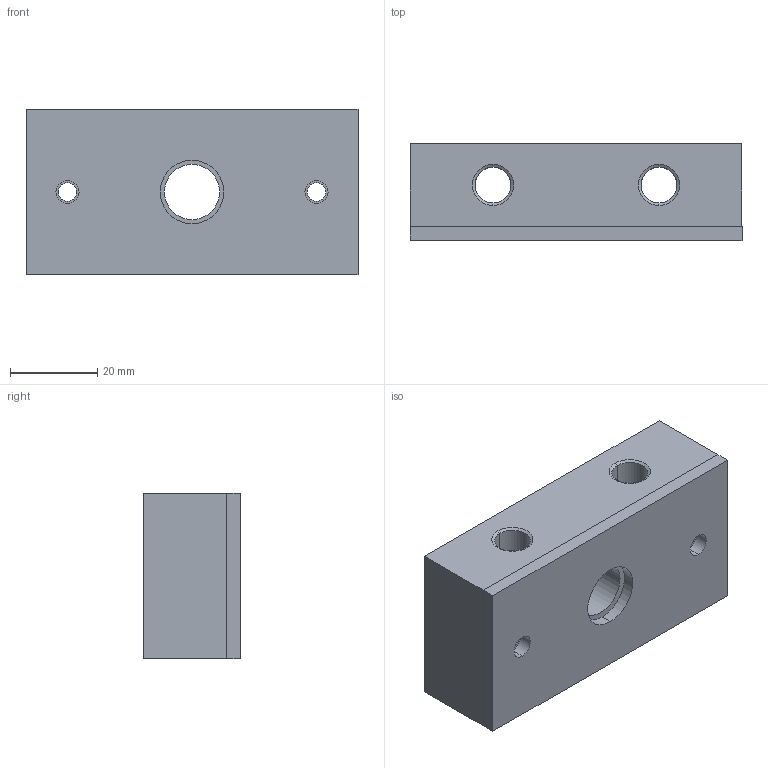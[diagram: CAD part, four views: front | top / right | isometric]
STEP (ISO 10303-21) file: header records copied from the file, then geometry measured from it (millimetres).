
FILE_DESCRIPTION (( 'STEP AP214' ), '1' );
FILE_NAME ('Bearing Block (904 000).STEP', '2020-11-20T13:08:18', ( '' ), ( '' ), 'SwSTEP 2.0', 'SolidWorks 2020', '' );
FILE_SCHEMA (( 'AUTOMOTIVE_DESIGN' ));
Length unit declared in the file: millimetre
Products named in the file (4): Bearing Block Base (104 000)_BOM; Bearing Block (904 000); 1.125OD x .5ID x .3125H Radial Bearing (013 000); Bearing Block Cover (104 002)_BOM
Assembly tree (3 placements, depth 2):
  Bearing Block (904 000)
    Bearing Block Base (104 000)_BOM
    1.125OD x .5ID x .3125H Radial Bearing (013 000)
    Bearing Block Cover (104 002)_BOM
Bounding box: 76.2 x 22.23 x 38.1 mm (x, y, z)
Volume: 56285.7 mm3; surface area: 21649.9 mm2
Topology: 3 solids, 3 shells, 55 faces, 126 edges, 80 vertices
Faces by surface type: cylinder 26, plane 17, cone 12
Entity records: 1802 total; most frequent: DIRECTION 312, CARTESIAN_POINT 267, ORIENTED_EDGE 252, EDGE_CURVE 126, AXIS2_PLACEMENT_3D 125, VERTEX_POINT 80, EDGE_LOOP 76, CIRCLE 64
